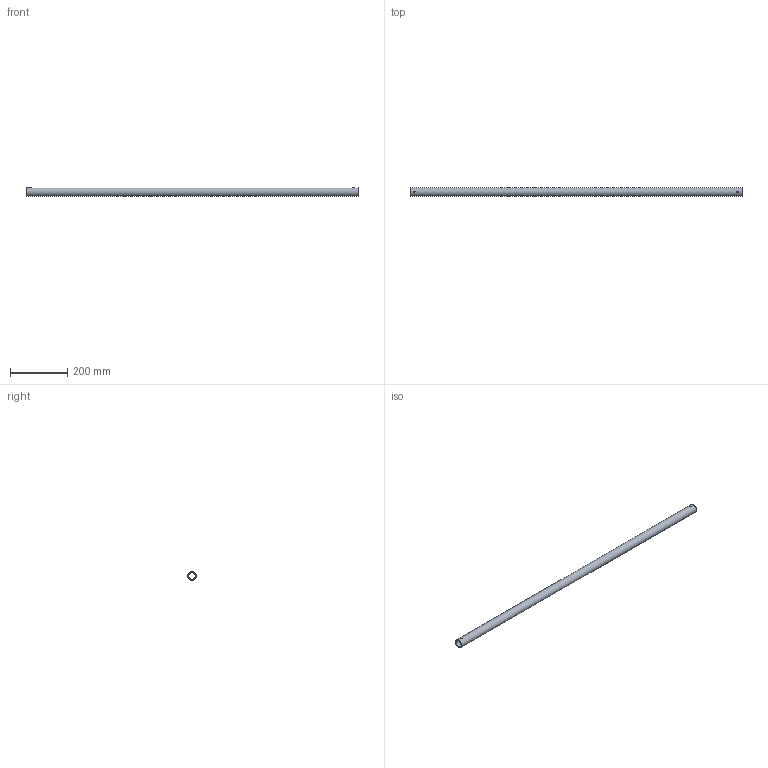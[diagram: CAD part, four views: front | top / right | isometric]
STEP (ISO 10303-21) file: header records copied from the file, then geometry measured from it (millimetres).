
FILE_DESCRIPTION(/* description */ (''),/* implementation_level */ '2;1');
FILE_NAME(/* name */ 'Pos113-Precisie buis 30x3-Aluminium-8st',/* time_stamp */ '2024-08-06T11:49:41+02:00',/* author */ (''),/* organization */ (''),/* preprocessor_version */ 'ST-DEVELOPER v16.5',/* originating_system */ 'HiCAD 2024 2901.2 Build 361',/* authorisation */ '');
FILE_SCHEMA (('AUTOMOTIVE_DESIGN { 1 0 10303 214 1 1 1 1 }'));
Length unit declared in the file: millimetre
Products named in the file (1): Pos113-Precisie buis 30x3-Aluminium-8st
Bounding box: 1156 x 30 x 30 mm (x, y, z)
Volume: 294047 mm3; surface area: 196635.9 mm2
Topology: 1 solids, 1 shells, 6 faces, 28 edges, 20 vertices
Faces by surface type: cylinder 4, plane 2
Full cylindrical faces by diameter (mm): 5 x2, 24 x1, 30 x1
Entity records: 436 total; most frequent: CARTESIAN_POINT 156, PRESENTATION_STYLE_ASSIGNMENT 25, COLOUR_RGB 25, DRAUGHTING_PRE_DEFINED_CURVE_FONT 24, CURVE_STYLE 24, OVER_RIDING_STYLED_ITEM 24, ORIENTED_EDGE 24, DIRECTION 24
